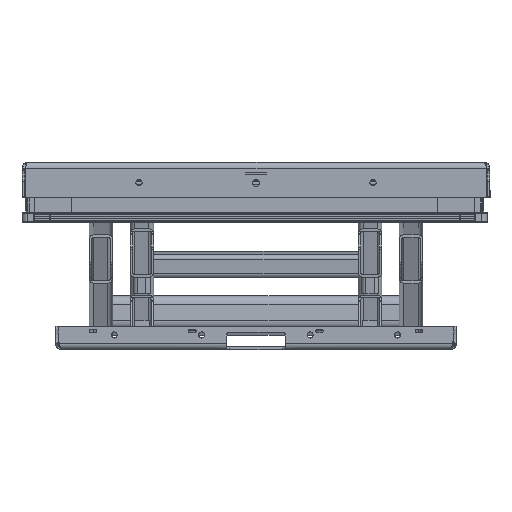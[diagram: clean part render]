
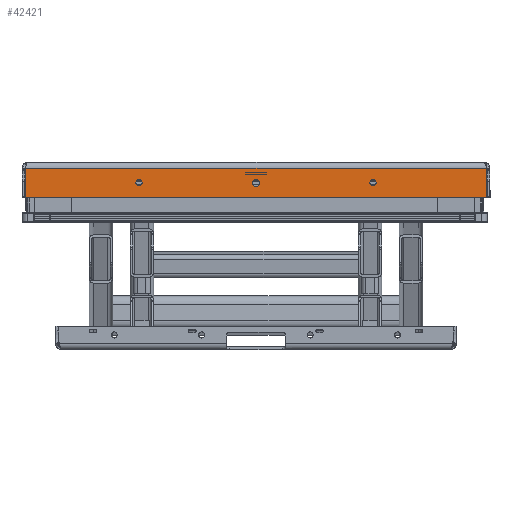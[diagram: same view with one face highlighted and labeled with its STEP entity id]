
A CAD part, left-side view. The second image highlights one B-rep face of the part: STEP entity #42421.
In plain terms, the highlighted planar face has unit normal (-1, 0, 0) as drawn and (1, 0, 0) by its records, which use the part's own axes.
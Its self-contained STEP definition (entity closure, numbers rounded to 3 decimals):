
#2890=FACE_BOUND('',#7987,.T.);
#2891=FACE_BOUND('',#7988,.T.);
#2892=FACE_BOUND('',#7989,.T.);
#3675=CIRCLE('',#45307,6.25);
#3679=CIRCLE('',#45313,5.25);
#3683=CIRCLE('',#45319,5.25);
#3754=CIRCLE('',#45437,1.);
#3756=CIRCLE('',#45441,1.);
#3757=CIRCLE('',#45442,1.);
#3758=CIRCLE('',#45443,1.);
#5413=FACE_OUTER_BOUND('',#7986,.T.);
#7986=EDGE_LOOP('',(#32139,#32140,#32141,#32142,#32143,#32144,#32145,#32146,
#32147,#32148));
#7987=EDGE_LOOP('',(#32149));
#7988=EDGE_LOOP('',(#32150));
#7989=EDGE_LOOP('',(#32151));
#11118=LINE('',#64365,#15070);
#11121=LINE('',#64371,#15073);
#11122=LINE('',#64375,#15074);
#11123=LINE('',#64377,#15075);
#11124=LINE('',#64379,#15076);
#11125=LINE('',#64383,#15077);
#15070=VECTOR('',#51955,787.);
#15073=VECTOR('',#51960,34.382);
#15074=VECTOR('',#51963,14.585);
#15075=VECTOR('',#51964,787.333);
#15076=VECTOR('',#51965,14.585);
#15077=VECTOR('',#51968,34.382);
#18950=VERTEX_POINT('',#63785);
#18954=VERTEX_POINT('',#63795);
#18958=VERTEX_POINT('',#63805);
#19090=VERTEX_POINT('',#64355);
#19091=VERTEX_POINT('',#64356);
#19094=VERTEX_POINT('',#64364);
#19096=VERTEX_POINT('',#64370);
#19097=VERTEX_POINT('',#64372);
#19098=VERTEX_POINT('',#64374);
#19099=VERTEX_POINT('',#64376);
#19100=VERTEX_POINT('',#64378);
#19101=VERTEX_POINT('',#64380);
#19102=VERTEX_POINT('',#64382);
#23736=EDGE_CURVE('',#18950,#18950,#3675,.T.);
#23740=EDGE_CURVE('',#18954,#18954,#3679,.T.);
#23744=EDGE_CURVE('',#18958,#18958,#3683,.T.);
#23925=EDGE_CURVE('',#19090,#19091,#3754,.T.);
#23929=EDGE_CURVE('',#19091,#19094,#11118,.T.);
#23932=EDGE_CURVE('',#19096,#19090,#11121,.T.);
#23933=EDGE_CURVE('',#19097,#19096,#3756,.T.);
#23934=EDGE_CURVE('',#19097,#19098,#11122,.T.);
#23935=EDGE_CURVE('',#19098,#19099,#11123,.T.);
#23936=EDGE_CURVE('',#19099,#19100,#11124,.T.);
#23937=EDGE_CURVE('',#19101,#19100,#3757,.T.);
#23938=EDGE_CURVE('',#19102,#19101,#11125,.T.);
#23939=EDGE_CURVE('',#19094,#19102,#3758,.T.);
#32139=ORIENTED_EDGE('',*,*,#23925,.F.);
#32140=ORIENTED_EDGE('',*,*,#23932,.F.);
#32141=ORIENTED_EDGE('',*,*,#23933,.F.);
#32142=ORIENTED_EDGE('',*,*,#23934,.T.);
#32143=ORIENTED_EDGE('',*,*,#23935,.T.);
#32144=ORIENTED_EDGE('',*,*,#23936,.T.);
#32145=ORIENTED_EDGE('',*,*,#23937,.F.);
#32146=ORIENTED_EDGE('',*,*,#23938,.F.);
#32147=ORIENTED_EDGE('',*,*,#23939,.F.);
#32148=ORIENTED_EDGE('',*,*,#23929,.F.);
#32149=ORIENTED_EDGE('',*,*,#23736,.T.);
#32150=ORIENTED_EDGE('',*,*,#23740,.T.);
#32151=ORIENTED_EDGE('',*,*,#23744,.T.);
#40858=PLANE('',#45440);
#42421=ADVANCED_FACE('',(#5413,#2890,#2891,#2892),#40858,.F.);
#45307=AXIS2_PLACEMENT_3D('',#63786,#51599,#51600);
#45313=AXIS2_PLACEMENT_3D('',#63796,#51611,#51612);
#45319=AXIS2_PLACEMENT_3D('',#63806,#51623,#51624);
#45437=AXIS2_PLACEMENT_3D('',#64357,#51947,#51948);
#45440=AXIS2_PLACEMENT_3D('',#64369,#51958,#51959);
#45441=AXIS2_PLACEMENT_3D('',#64373,#51961,#51962);
#45442=AXIS2_PLACEMENT_3D('',#64381,#51966,#51967);
#45443=AXIS2_PLACEMENT_3D('',#64384,#51969,#51970);
#51599=DIRECTION('center_axis',(-1.,0.,0.));
#51600=DIRECTION('ref_axis',(0.,0.,1.));
#51611=DIRECTION('center_axis',(-1.,0.,0.));
#51612=DIRECTION('ref_axis',(0.,0.,1.));
#51623=DIRECTION('center_axis',(-1.,0.,0.));
#51624=DIRECTION('ref_axis',(0.,0.,1.));
#51947=DIRECTION('center_axis',(-1.,0.,0.));
#51948=DIRECTION('ref_axis',(0.,-0.707,0.707));
#51955=DIRECTION('',(0.,1.,0.));
#51958=DIRECTION('center_axis',(-1.,0.,0.));
#51959=DIRECTION('ref_axis',(0.,0.,
1.));
#51960=DIRECTION('',(0.,0.,1.));
#51961=DIRECTION('center_axis',(-1.,0.,0.));
#51962=DIRECTION('ref_axis',(0.,-1.,-0.029));
#51963=DIRECTION('',(0.,0.057,-0.998));
#51964=DIRECTION('',(0.,1.,0.));
#51965=DIRECTION('',(0.,0.057,0.998));
#51966=DIRECTION('center_axis',(-1.,0.,0.));
#51967=DIRECTION('ref_axis',(0.,1.,-0.029));
#51968=DIRECTION('',(0.,0.,-1.));
#51969=DIRECTION('center_axis',(-1.,0.,0.));
#51970=DIRECTION('ref_axis',(0.,0.707,0.707));
#63785=CARTESIAN_POINT('',(650.,0.,28.75));
#63786=CARTESIAN_POINT('Origin',(650.,0.,35.));
#63795=CARTESIAN_POINT('',(650.,200.,29.75));
#63796=CARTESIAN_POINT('Origin',(650.,200.,35.));
#63805=CARTESIAN_POINT('',(650.,-200.,29.75));
#63806=CARTESIAN_POINT('Origin',(650.,-200.,35.));
#64355=CARTESIAN_POINT('',(650.,-394.5,59.));
#64356=CARTESIAN_POINT('',(650.,-393.5,60.));
#64357=CARTESIAN_POINT('Origin',(650.,-393.5,59.));
#64364=CARTESIAN_POINT('',(650.,393.5,60.));
#64365=CARTESIAN_POINT('',(650.,-394.5,60.));
#64369=CARTESIAN_POINT('Origin',(650.,0.,30.027));
#64370=CARTESIAN_POINT('',(650.,-394.5,24.618));
#64371=CARTESIAN_POINT('',(650.,-394.5,10.));
#64372=CARTESIAN_POINT('',(650.,-394.498,24.561));
#64373=CARTESIAN_POINT('Origin',(650.,-393.5,24.618));
#64374=CARTESIAN_POINT('',(650.,-393.666,10.));
#64375=CARTESIAN_POINT('',(650.,-394.013,16.065));
#64376=CARTESIAN_POINT('',(650.,393.666,10.));
#64377=CARTESIAN_POINT('',(650.,0.,10.));
#64378=CARTESIAN_POINT('',(650.,394.498,24.561));
#64379=CARTESIAN_POINT('',(650.,394.013,16.065));
#64380=CARTESIAN_POINT('',(650.,394.5,24.618));
#64381=CARTESIAN_POINT('Origin',(650.,393.5,24.618));
#64382=CARTESIAN_POINT('',(650.,394.5,59.));
#64383=CARTESIAN_POINT('',(650.,394.5,10.));
#64384=CARTESIAN_POINT('Origin',(650.,393.5,59.));
